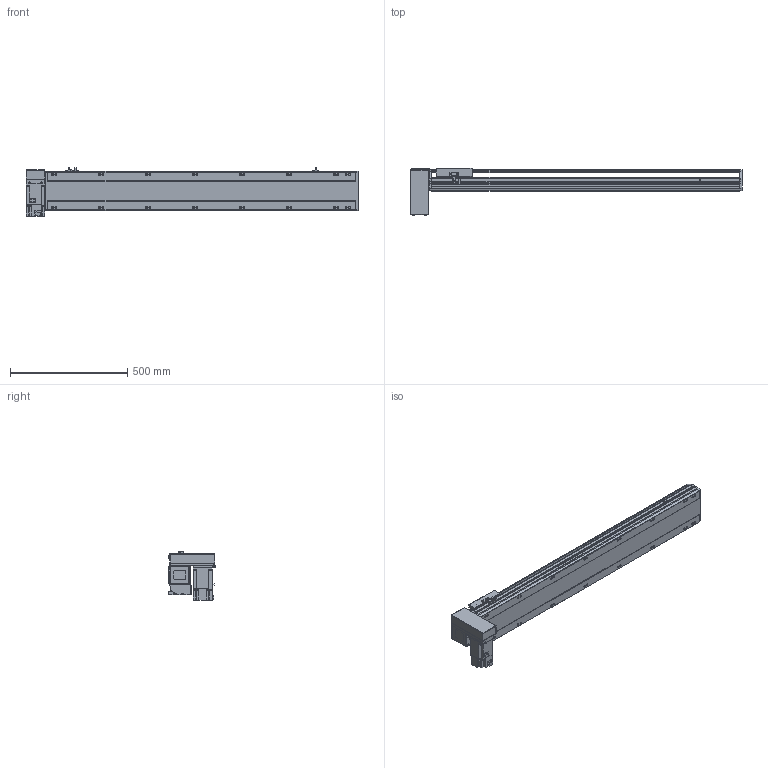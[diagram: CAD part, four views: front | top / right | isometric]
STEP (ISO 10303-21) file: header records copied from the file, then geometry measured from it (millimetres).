
FILE_DESCRIPTION(/* description */ ('STEP AP214'),/* implementation_level */ '2;1');
FILE_NAME(/* name */ 'PBS170-P40-S1050-RD-T75-C1-N(0)',/* time_stamp */ '2022-06-08T07:35:34+02:00',/* author */ ('License CC BY-ND 4.0'),/* organization */ ('CADENAS'),/* preprocessor_version */ 'ST-DEVELOPER v18.102',/* originating_system */ 'PARTsolutions',/* authorisation */ ' ');
FILE_SCHEMA (('AUTOMOTIVE_DESIGN {1 0 10303 214 3 1 1}'));
Length unit declared in the file: millimetre
Products named in the file (7): PBS170-P40-S1050-RD-T75-C1-N(0); PBS170_sensor; PBS170_plant; PBS170_sliser; T75-p1; PBS170T-RD_motors; PBS170-S1050()_body
Assembly tree (8 placements, depth 2):
  PBS170-P40-S1050-RD-T75-C1-N(0)
    PBS170_sensor  x3
    PBS170_plant
    PBS170_sliser
    T75-p1
    PBS170T-RD_motors
    PBS170-S1050()_body
Bounding box: 1413 x 201 x 205.3 mm (x, y, z)
Volume: 11343946.9 mm3; surface area: 1484227.3 mm2
Topology: 8 solids, 8 shells, 1082 faces, 2875 edges, 1874 vertices
Faces by surface type: plane 687, cylinder 339, cone 46, sphere 8, torus 2
Full cylindrical faces by diameter (mm): 3.242 x4, 4 x2, 4.4 x4, 4.5 x6, 4.917 x4, 6 x9, 6.647 x24, 7 x2, 7.5 x4, 8 x8, 8.5 x16, 10 x4, 10.5 x16, 11 x2, 30 x2, 40 x1, 70 x1
Entity records: 31118 total; most frequent: CARTESIAN_POINT 5713, DIRECTION 5300, ORIENTED_EDGE 5028, EDGE_CURVE 2514, AXIS2_PLACEMENT_3D 1837, VERTEX_POINT 1730, LINE 1626, VECTOR 1626
